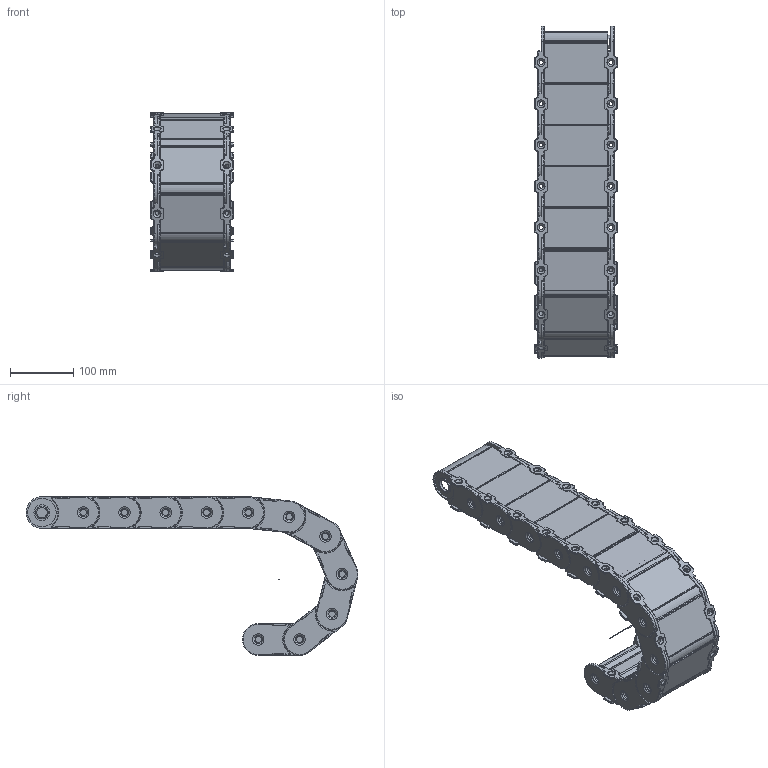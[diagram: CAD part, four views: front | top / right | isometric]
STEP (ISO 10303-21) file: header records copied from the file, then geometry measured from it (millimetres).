
FILE_DESCRIPTION((''),'2;1');
FILE_NAME('C:\Uebbing\TRACE PARTS\PKK 225\PKK 225 vereinfacht.stp','2013-05-02T10:11:40',('Uebbing'),(''),'Autodesk Inventor 10','Autodesk Inventor 10','');
FILE_SCHEMA(('AUTOMOTIVE_DESIGN { 1 0 10303 214 1 1 1 1 }'));
Length unit declared in the file: millimetre
Products named in the file (6): PKK 225 vereinfacht; PKK 225 Glied vereinfacht; PKK 220 Lasche vereinfacht; PKK 225 ASI 100vereinfacht; PKK 225 ASA100vereinfacht; Achse
Assembly tree (16 placements, depth 3):
  PKK 225 vereinfacht
    PKK 225 Glied vereinfacht  x11
      PKK 220 Lasche vereinfacht
      PKK 225 ASI 100vereinfacht
      PKK 225 ASA100vereinfacht
    Achse
Bounding box: 130 x 523.06 x 250 mm (x, y, z)
Volume: 988085.6 mm3; surface area: 728297.6 mm2
Topology: 45 solids, 45 shells, 3380 faces, 8507 edges, 5393 vertices
Faces by surface type: cylinder 1486, plane 1300, bspline 418, torus 154, cone 22
Full cylindrical faces by diameter (mm): 1 x1, 6.3 x22, 12.4 x22, 14 x22, 20.1 x22, 20.309 x22, 25 x44, 45 x44
Entity records: 6678 total; most frequent: CARTESIAN_POINT 1468, DIRECTION 1077, ORIENTED_EDGE 1018, EDGE_CURVE 509, AXIS2_PLACEMENT_3D 372, VERTEX_POINT 338, VECTOR 333, LINE 333
